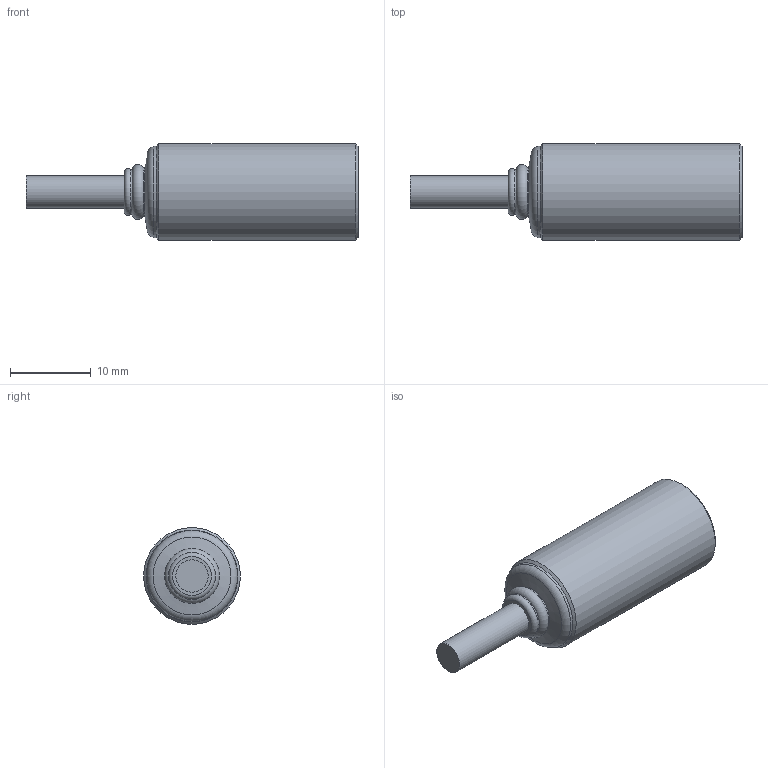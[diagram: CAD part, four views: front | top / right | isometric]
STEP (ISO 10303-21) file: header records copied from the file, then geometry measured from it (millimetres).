
FILE_DESCRIPTION((''),'2;1');
FILE_NAME('J:\Projekte\Kunststoff-Blechteile\Zeichnungen\Bibliothek Inventor\3D Solids\dbk+4\STP\dbk+4_ausg. Empf. M12.stp','2010-01-28T13:42:10',('Oliver Liedtke'),(''),'Autodesk Inventor 2009','Autodesk Inventor 2009','');
FILE_SCHEMA(('AUTOMOTIVE_DESIGN { 1 0 10303 214 1 1 1 1 }'));
Length unit declared in the file: millimetre
Products named in the file (1): dbk+4_ausg.Empf_M12
Bounding box: 41.16 x 12 x 12 mm (x, y, z)
Volume: 3174.8 mm3; surface area: 1385.9 mm2
Topology: 1 solids, 1 shells, 18 faces, 30 edges, 17 vertices
Faces by surface type: plane 5, cone 4, cylinder 4, torus 3, bspline 2
Full cylindrical faces by diameter (mm): 4 x1, 7.6 x1, 10.2 x1, 12 x1
Entity records: 566 total; most frequent: CARTESIAN_POINT 195, DIRECTION 68, AXIS2_PLACEMENT_3D 34, ORIENTED_EDGE 34, EDGE_LOOP 34, FACE_OUTER_BOUND 18, ADVANCED_FACE 18, VERTEX_POINT 17
